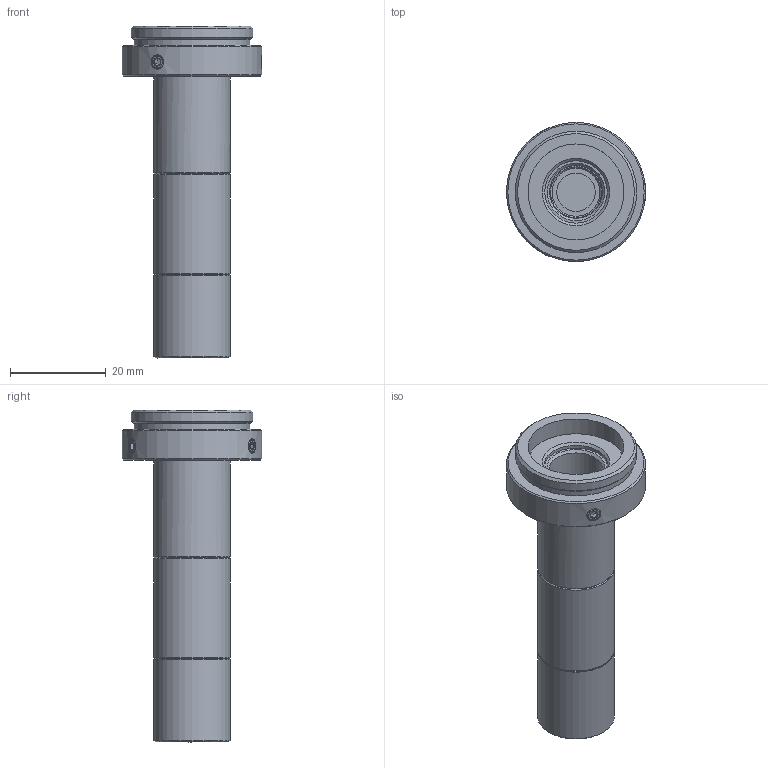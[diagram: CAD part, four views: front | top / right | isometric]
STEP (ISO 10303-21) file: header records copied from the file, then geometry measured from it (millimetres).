
FILE_DESCRIPTION(('STEP AP214'),'1');
FILE_NAME('RTK-4-65.stp','2026-03-16T06:42:06',(' '),(' '),'Spatial InterOp 3D',' ',' ');
FILE_SCHEMA(('AUTOMOTIVE_DESIGN { 1 0 10303 214 1 1 1 1 }'));
Length unit declared in the file: metre
Products named in the file (2): RTK-4-65; Component1
Assembly tree (1 placements, depth 2):
  RTK-4-65
    Component1
Bounding box: 29 x 29 x 69.17 mm (x, y, z)
Volume: 10379.3 mm3; surface area: 8181.5 mm2
Topology: 1 solids, 1 shells, 131 faces, 302 edges, 198 vertices
Faces by surface type: plane 51, cone 49, cylinder 26, bspline 3, sphere 2
Full cylindrical faces by diameter (mm): 8 x1, 10 x2, 11 x1, 12 x3, 13 x2, 13.4 x2, 13.5 x2, 13.7 x1, 13.9 x1, 14.2 x2, 16 x3, 20 x1, 24.12 x1, 25.32 x1, 29 x1
Entity records: 4710 total; most frequent: CARTESIAN_POINT 1001, DIRECTION 548, ORIENTED_EDGE 448, AXIS2_PLACEMENT_3D 230, EDGE_CURVE 224, EDGE_LOOP 210, VERTEX_POINT 176, FACE_OUTER_BOUND 157
